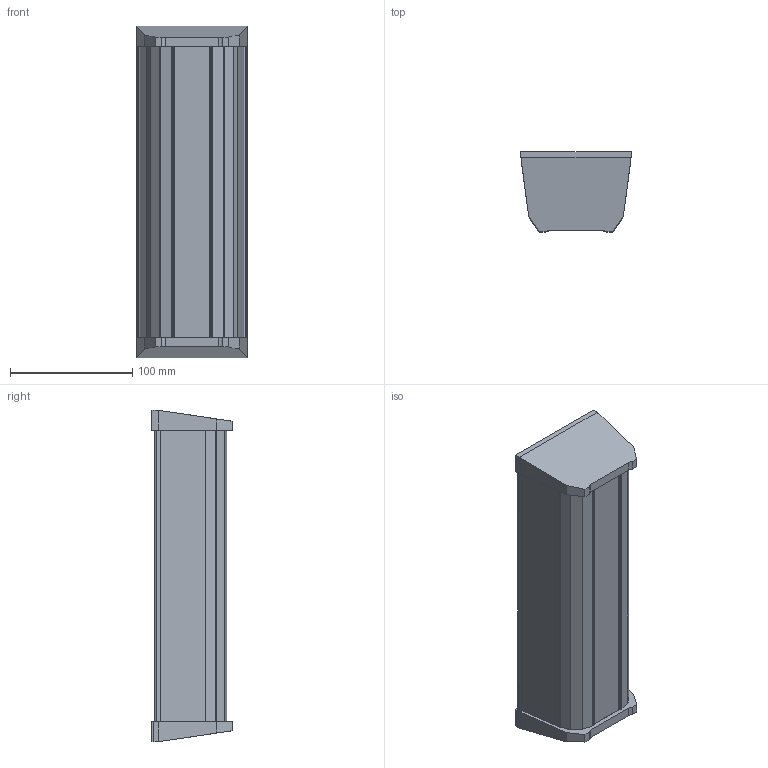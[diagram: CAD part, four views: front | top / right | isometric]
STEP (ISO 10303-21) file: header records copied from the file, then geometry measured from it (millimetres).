
FILE_DESCRIPTION (( 'STEP AP214' ), '1' );
FILE_NAME ('Besteckschale NL270 L271,5.step', '2010-09-21T13:13:27', ( 'grass' ), ( '' ), 'SwSTEP 2.0', 'SolidWorks 2010', '' );
FILE_SCHEMA (( 'AUTOMOTIVE_DESIGN' ));
Length unit declared in the file: millimetre
Products named in the file (1): Besteckschale NL270 L271,5
Bounding box: 90.5 x 65.5 x 271.5 mm (x, y, z)
Volume: 70188.2 mm3; surface area: 118735.2 mm2
Topology: 1 solids, 1 shells, 112 faces, 324 edges, 216 vertices
Faces by surface type: plane 80, cylinder 32
Entity records: 3702 total; most frequent: CARTESIAN_POINT 677, ORIENTED_EDGE 648, DIRECTION 602, EDGE_CURVE 324, VECTOR 256, LINE 256, VERTEX_POINT 216, AXIS2_PLACEMENT_3D 173
